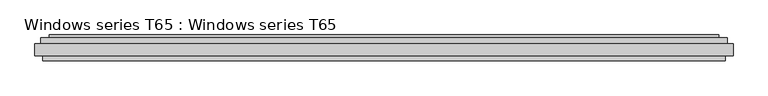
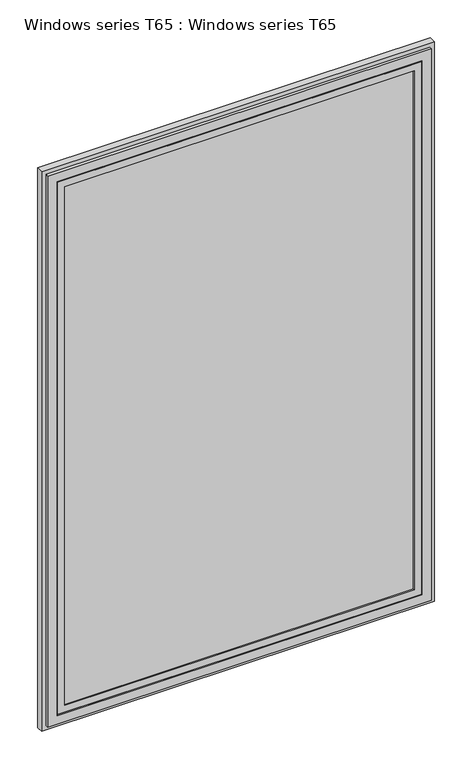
"""IFC4 building model written with IfcOpenShell, lengths in millimetres: plate geometry, Windows series T65 : Windows series T65."""

from ifc_helpers import new_model, si_unit, frame, origin, place, context, project, spatial, polyline, outline, extrude, faceted_brep, source, transform, mapped, element, save


def windows_series_t65_windows_series_t65_0c6ae27d(model_context):
    return source(origin(), model_context, "Body", "SolidModel", [
        extrude(outline(polyline([(893.5335052, 2.9719406), (893.5335052, -24.0391315), (-893.5335052, -24.0391315), (-893.5335052, 2.9719406), (893.5335052, 2.9719406)])), frame((0.0, 0.0, 101.4664948), z_axis=(0.0, 0.0, 1.0), x_axis=(1.0, 0.0, 0.0)), (0.0, 0.0, 1.0), 2787.0675007),
        faceted_brep([(947.6578264, 33.6346953, 2942.6583167), (947.6578264, 33.6346953, 47.3421736), (947.6578264, 41.4624837, 47.3421736), (947.6578264, 41.4624837, 2942.6583167), (930.1577953, -26.0329441, 2925.1582856), (930.1577953, -26.0329441, 64.8422047), (930.1577953, 33.6346953, 64.8422047), (930.1577953, 33.6346953, 2925.1582856), (914.6800853, -31.5366025, 2909.6805756), (914.6800853, -31.5366025, 80.3199147), (914.6800853, -26.0329441, 80.3199147), (914.6800853, -26.0329441, 2909.6805756), (879.1624166, -24.0391315, 2874.1629069), (879.1624166, -24.0391315, 115.8375834), (879.1624166, -31.5366025, 115.8375834), (879.1624166, -31.5366025, 2874.1629069), (893.5335052, 2.9719406, 2888.5339955), (893.5335052, 2.9719406, 101.4664948), (893.5335052, -24.0391315, 101.4664948), (893.5335052, -24.0391315, 2888.5339955), (879.1576676, 41.4624837, 2874.1581579), (879.1576676, 41.4624837, 115.8423324), (879.1576676, 2.9719406, 115.8423324), (879.1576676, 2.9719406, 2874.1581579), (-947.6578264, 33.6346953, 47.3421736), (-947.6578264, 41.4624837, 47.3421736), (-930.1577953, -26.0329441, 64.8422047), (-930.1577953, 33.6346953, 64.8422047), (-914.6800853, -31.5366025, 80.3199147), (-914.6800853, -26.0329441, 80.3199147), (-879.1624166, -24.0391315, 115.8375834), (-879.1624166, -31.5366025, 115.8375834), (-893.5335052, 2.9719406, 101.4664948), (-893.5335052, -24.0391315, 101.4664948), (-879.1576676, 41.4624837, 115.8423324), (-879.1576676, 2.9719406, 115.8423324), (-947.6578264, 33.6346953, 2942.6583167), (-947.6578264, 41.4624837, 2942.6583167), (-930.1577953, -26.0329441, 2925.1582856), (-930.1577953, 33.6346953, 2925.1582856), (-914.6800853, -31.5366025, 2909.6805756), (-914.6800853, -26.0329441, 2909.6805756), (-879.1624166, -24.0391315, 2874.1629069), (-879.1624166, -31.5366025, 2874.1629069), (-893.5335052, 2.9719406, 2888.5339955), (-893.5335052, -24.0391315, 2888.5339955), (-879.1576676, 41.4624837, 2874.1581579), (-879.1576676, 2.9719406, 2874.1581579)], [[[0, 1, 2, 3]], [[4, 5, 6, 7]], [[8, 9, 10, 11]], [[12, 13, 14, 15]], [[16, 17, 18, 19]], [[20, 21, 22, 23]], [[1, 24, 25, 2]], [[5, 26, 27, 6]], [[9, 28, 29, 10]], [[13, 30, 31, 14]], [[17, 32, 33, 18]], [[21, 34, 35, 22]], [[24, 36, 37, 25]], [[26, 38, 39, 27]], [[28, 40, 41, 29]], [[30, 42, 43, 31]], [[32, 44, 45, 33]], [[34, 46, 47, 35]], [[36, 0, 3, 37]], [[1, 0, 36, 24], [7, 6, 27, 39]], [[38, 4, 7, 39]], [[5, 4, 38, 26], [11, 10, 29, 41]], [[40, 8, 11, 41]], [[9, 8, 40, 28], [15, 14, 31, 43]], [[42, 12, 15, 43]], [[19, 18, 33, 45], [13, 12, 42, 30]], [[44, 16, 19, 45]], [[17, 16, 44, 32], [23, 22, 35, 47]], [[46, 20, 23, 47]], [[3, 2, 25, 37], [21, 20, 46, 34]]]),
        faceted_brep([(988.0578654, -17.0, 2983.0583557), (988.0578654, -17.0, 6.9421346), (988.0578654, 17.0041191, 6.9421346), (988.0578654, 17.0041191, 2983.0583557), (965.7371871, -31.5375156, 2960.7376774), (965.7371871, -31.5375156, 29.2628129), (965.7371871, -17.0, 29.2628129), (965.7371871, -17.0, 2960.7376774), (918.9315789, -26.0329441, 2913.9320692), (918.9315789, -26.0329441, 76.0684211), (918.9315789, -31.5375156, 76.0684211), (918.9315789, -31.5375156, 2913.9320692), (941.1608763, 33.6330413, 2936.1613666), (941.1608763, 33.6330413, 53.8391237), (941.1608763, -26.0329441, 53.8391237), (941.1608763, -26.0329441, 2936.1613666), (971.8882735, 17.0041191, 2966.8887638), (971.8882735, 17.0041191, 23.1117265), (971.8882735, 33.6330413, 23.1117265), (971.8882735, 33.6330413, 2966.8887638), (-988.0578654, -17.0, 6.9421346), (-988.0578654, 17.0041191, 6.9421346), (-965.7371871, -31.5375156, 29.2628129), (-965.7371871, -17.0, 29.2628129), (-918.9315789, -26.0329441, 76.0684211), (-918.9315789, -31.5375156, 76.0684211), (-941.1608763, 33.6330413, 53.8391237), (-941.1608763, -26.0329441, 53.8391237), (-971.8882735, 17.0041191, 23.1117265), (-971.8882735, 33.6330413, 23.1117265), (-988.0578654, -17.0, 2983.0583557), (-988.0578654, 17.0041191, 2983.0583557), (-965.7371871, -31.5375156, 2960.7376774), (-965.7371871, -17.0, 2960.7376774), (-918.9315789, -26.0329441, 2913.9320692), (-918.9315789, -31.5375156, 2913.9320692), (-941.1608763, 33.6330413, 2936.1613666), (-941.1608763, -26.0329441, 2936.1613666), (-971.8882735, 17.0041191, 2966.8887638), (-971.8882735, 33.6330413, 2966.8887638)], [[[0, 1, 2, 3]], [[4, 5, 6, 7]], [[8, 9, 10, 11]], [[12, 13, 14, 15]], [[16, 17, 18, 19]], [[1, 20, 21, 2]], [[5, 22, 23, 6]], [[9, 24, 25, 10]], [[13, 26, 27, 14]], [[17, 28, 29, 18]], [[20, 30, 31, 21]], [[22, 32, 33, 23]], [[24, 34, 35, 25]], [[26, 36, 37, 27]], [[28, 38, 39, 29]], [[30, 0, 3, 31]], [[1, 0, 30, 20], [7, 6, 23, 33]], [[32, 4, 7, 33]], [[5, 4, 32, 22], [11, 10, 25, 35]], [[34, 8, 11, 35]], [[15, 14, 27, 37], [9, 8, 34, 24]], [[36, 12, 15, 37]], [[19, 18, 29, 39], [13, 12, 36, 26]], [[38, 16, 19, 39]], [[3, 2, 21, 31], [17, 16, 38, 28]]]),
    ])


if __name__ == "__main__":
    model = new_model("IFC4")
    model_context = context("Model", 3, world=origin())
    ifc_project = project(units=[si_unit("LENGTHUNIT", "METRE", prefix="MILLI")], contexts=[model_context])
    site = spatial("IfcSite", under=ifc_project)
    building = spatial("IfcBuilding", under=site)
    placement = place(None, origin())
    windows_series_t65_windows_series_t65_shape = windows_series_t65_windows_series_t65_0c6ae27d(model_context)
    element("IfcPlate", 1, ObjectType="Windows series T65 : Windows series T65", at=placement, inside=building, context=model_context, shape_type="MappedRepresentation", body=[
        mapped(windows_series_t65_windows_series_t65_shape, transform((0.0, 0.0, 0.0), x_axis=(1.0, 0.0, 0.0), y_axis=(0.0, 1.0, 0.0), z_axis=(0.0, 0.0, 1.0))),
    ])
    save(model, "model.ifc")
